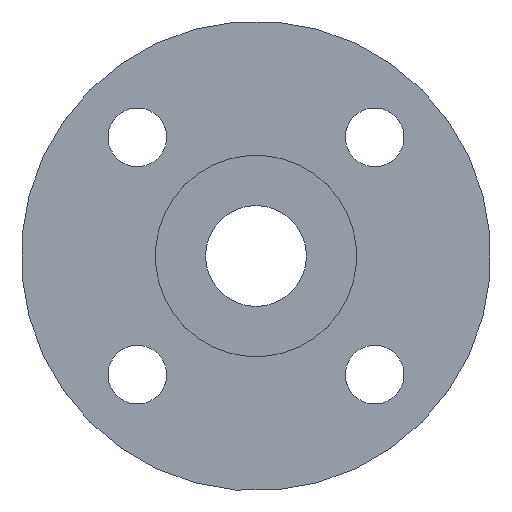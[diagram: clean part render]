
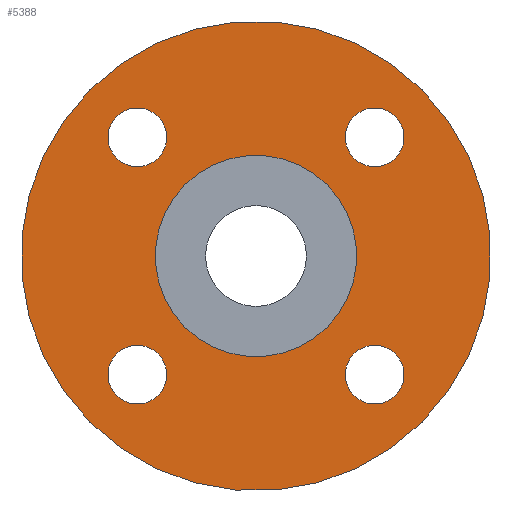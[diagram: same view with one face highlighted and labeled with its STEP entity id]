
A CAD part, left-side view. The second image highlights one B-rep face of the part: STEP entity #5388.
In plain terms, the highlighted planar face has unit normal (-1, 0, 0).
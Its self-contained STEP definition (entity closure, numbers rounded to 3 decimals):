
#106=CIRCLE('',#5723,6.);
#108=CIRCLE('',#5728,14.);
#109=CIRCLE('',#5730,1.75);
#110=CIRCLE('',#5731,1.75);
#111=CIRCLE('',#5732,1.75);
#112=CIRCLE('',#5733,1.75);
#1622=ORIENTED_EDGE('',*,*,#3176,.F.);
#1623=ORIENTED_EDGE('',*,*,#3177,.F.);
#1624=ORIENTED_EDGE('',*,*,#3178,.F.);
#1625=ORIENTED_EDGE('',*,*,#3179,.F.);
#1626=ORIENTED_EDGE('',*,*,#3173,.F.);
#1627=ORIENTED_EDGE('',*,*,#3175,.F.);
#3173=EDGE_CURVE('',#3952,#3952,#106,.F.);
#3175=EDGE_CURVE('',#3954,#3954,#108,.T.);
#3176=EDGE_CURVE('',#3955,#3955,#109,.T.);
#3177=EDGE_CURVE('',#3956,#3956,#110,.T.);
#3178=EDGE_CURVE('',#3957,#3957,#111,.T.);
#3179=EDGE_CURVE('',#3958,#3958,#112,.T.);
#3952=VERTEX_POINT('',#8492);
#3954=VERTEX_POINT('',#8499);
#3955=VERTEX_POINT('',#8502);
#3956=VERTEX_POINT('',#8504);
#3957=VERTEX_POINT('',#8506);
#3958=VERTEX_POINT('',#8508);
#4416=EDGE_LOOP('',(#1622));
#4417=EDGE_LOOP('',(#1623));
#4418=EDGE_LOOP('',(#1624));
#4419=EDGE_LOOP('',(#1625));
#4420=EDGE_LOOP('',(#1626));
#4421=EDGE_LOOP('',(#1627));
#4805=FACE_BOUND('',#4416,.T.);
#4806=FACE_BOUND('',#4417,.T.);
#4807=FACE_BOUND('',#4418,.T.);
#4808=FACE_BOUND('',#4419,.T.);
#4809=FACE_BOUND('',#4420,.T.);
#4810=FACE_BOUND('',#4421,.T.);
#5146=PLANE('',#5729);
#5388=ADVANCED_FACE('',(#4805,#4806,#4807,#4808,#4809,#4810),#5146,.F.);
#5723=AXIS2_PLACEMENT_3D('',#8491,#6196,#6197);
#5728=AXIS2_PLACEMENT_3D('',#8498,#6206,#6207);
#5729=AXIS2_PLACEMENT_3D('',#8500,#6208,#6209);
#5730=AXIS2_PLACEMENT_3D('',#8501,#6210,#6211);
#5731=AXIS2_PLACEMENT_3D('',#8503,#6212,#6213);
#5732=AXIS2_PLACEMENT_3D('',#8505,#6214,#6215);
#5733=AXIS2_PLACEMENT_3D('',#8507,#6216,#6217);
#6196=DIRECTION('',(1.,0.,0.));
#6197=DIRECTION('',(0.,0.707,-0.707));
#6206=DIRECTION('',(1.,0.,0.));
#6207=DIRECTION('',(0.,0.707,-0.707));
#6208=DIRECTION('',(1.,0.,0.));
#6209=DIRECTION('',(0.,0.707,-0.707));
#6210=DIRECTION('',(-1.,0.,0.));
#6211=DIRECTION('',(0.,-0.707,0.707));
#6212=DIRECTION('',(-1.,0.,0.));
#6213=DIRECTION('',(0.,-0.707,0.707));
#6214=DIRECTION('',(-1.,0.,0.));
#6215=DIRECTION('',(0.,-0.707,0.707));
#6216=DIRECTION('',(-1.,0.,0.));
#6217=DIRECTION('',(0.,-0.707,0.707));
#8491=CARTESIAN_POINT('',(4.5,0.,0.));
#8492=CARTESIAN_POINT('',(4.5,4.243,-4.243));
#8498=CARTESIAN_POINT('',(4.5,0.,0.));
#8499=CARTESIAN_POINT('',(4.5,9.899,-9.899));
#8500=CARTESIAN_POINT('',(4.5,0.,0.));
#8501=CARTESIAN_POINT('',(4.5,7.071,-7.071));
#8502=CARTESIAN_POINT('',(4.5,5.834,-5.834));
#8503=CARTESIAN_POINT('',(4.5,-7.071,-7.071));
#8504=CARTESIAN_POINT('',(4.5,-8.309,-5.834));
#8505=CARTESIAN_POINT('',(4.5,-7.071,7.071));
#8506=CARTESIAN_POINT('',(4.5,-8.309,8.309));
#8507=CARTESIAN_POINT('',(4.5,7.071,7.071));
#8508=CARTESIAN_POINT('',(4.5,5.834,8.309));
